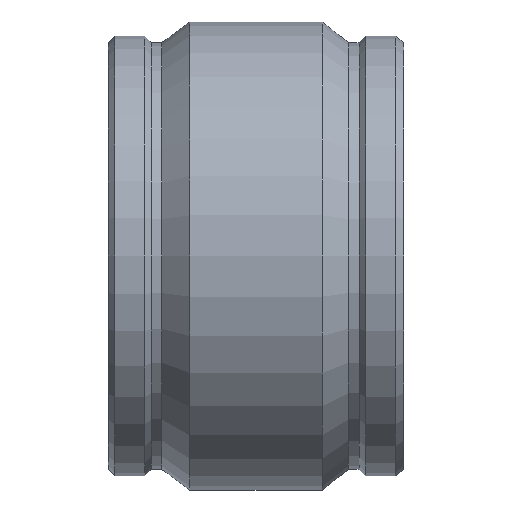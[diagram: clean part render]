
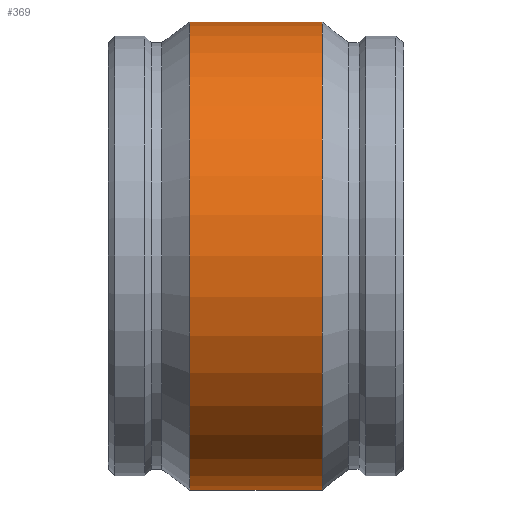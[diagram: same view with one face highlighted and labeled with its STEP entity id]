
A CAD part, front view. The second image highlights one B-rep face of the part: STEP entity #369.
In plain terms, the highlighted cylindrical face has radius 297.942 mm (diameter 595.884 mm), a full revolution.
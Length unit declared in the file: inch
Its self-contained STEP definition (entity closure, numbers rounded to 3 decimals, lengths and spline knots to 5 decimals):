
#17=CYLINDRICAL_SURFACE('',#423,11.73);
#28=LINE('',#646,#44);
#44=VECTOR('',#516,11.73);
#73=FACE_OUTER_BOUND('',#94,.T.);
#94=EDGE_LOOP('',(#281,#282,#283,#284,#285,#286));
#123=CIRCLE('',#421,11.73);
#124=CIRCLE('',#422,11.73);
#125=CIRCLE('',#424,11.73);
#126=CIRCLE('',#425,11.73);
#163=VERTEX_POINT('',#636);
#164=VERTEX_POINT('',#637);
#165=VERTEX_POINT('',#642);
#166=VERTEX_POINT('',#643);
#207=EDGE_CURVE('',#163,#164,#123,.T.);
#208=EDGE_CURVE('',#164,#163,#124,.T.);
#210=EDGE_CURVE('',#165,#166,#125,.T.);
#211=EDGE_CURVE('',#166,#165,#126,.T.);
#212=EDGE_CURVE('',#166,#164,#28,.T.);
#281=ORIENTED_EDGE('',*,*,#210,.F.);
#282=ORIENTED_EDGE('',*,*,#211,.F.);
#283=ORIENTED_EDGE('',*,*,#212,.T.);
#284=ORIENTED_EDGE('',*,*,#208,.T.);
#285=ORIENTED_EDGE('',*,*,#207,.T.);
#286=ORIENTED_EDGE('',*,*,#212,.F.);
#369=ADVANCED_FACE('',(#73),#17,.T.);
#421=AXIS2_PLACEMENT_3D('',#638,#505,#506);
#422=AXIS2_PLACEMENT_3D('',#639,#507,#508);
#423=AXIS2_PLACEMENT_3D('',#641,#510,#511);
#424=AXIS2_PLACEMENT_3D('',#644,#512,#513);
#425=AXIS2_PLACEMENT_3D('',#645,#514,#515);
#505=DIRECTION('center_axis',(1.,0.,0.));
#506=DIRECTION('ref_axis',(0.,0.,-1.));
#507=DIRECTION('center_axis',(1.,0.,0.));
#508=DIRECTION('ref_axis',(0.,0.,-1.));
#510=DIRECTION('center_axis',(1.,0.,0.));
#511=DIRECTION('ref_axis',(0.,1.,0.));
#512=DIRECTION('center_axis',(1.,0.,0.));
#513=DIRECTION('ref_axis',(0.,0.,-1.));
#514=DIRECTION('center_axis',(1.,0.,0.));
#515=DIRECTION('ref_axis',(0.,0.,-1.));
#516=DIRECTION('',(-1.,0.,0.));
#636=CARTESIAN_POINT('',(-3.33,11.73,0.));
#637=CARTESIAN_POINT('',(-3.33,-11.73,0.));
#638=CARTESIAN_POINT('Origin',(-3.33,0.,0.));
#639=CARTESIAN_POINT('Origin',(-3.33,0.,0.));
#641=CARTESIAN_POINT('Origin',(0.,0.,0.));
#642=CARTESIAN_POINT('',(3.33,11.73,0.));
#643=CARTESIAN_POINT('',(3.33,-11.73,0.));
#644=CARTESIAN_POINT('Origin',(3.33,0.,0.));
#645=CARTESIAN_POINT('Origin',(3.33,0.,0.));
#646=CARTESIAN_POINT('',(0.,-11.73,0.));
